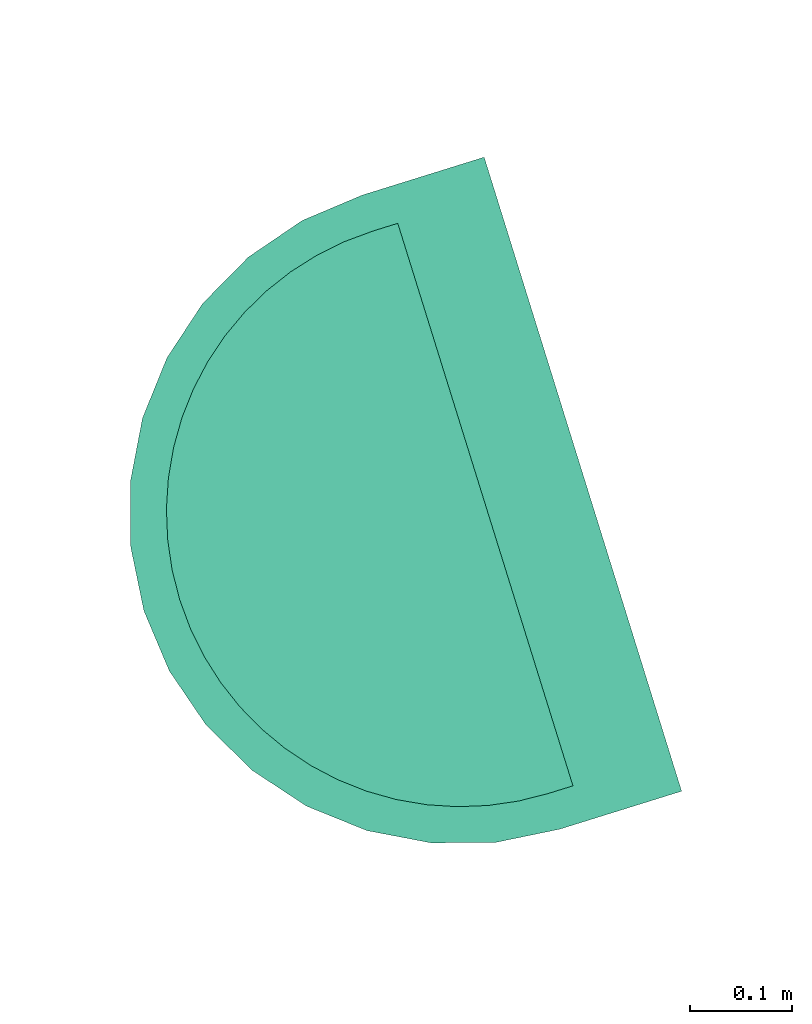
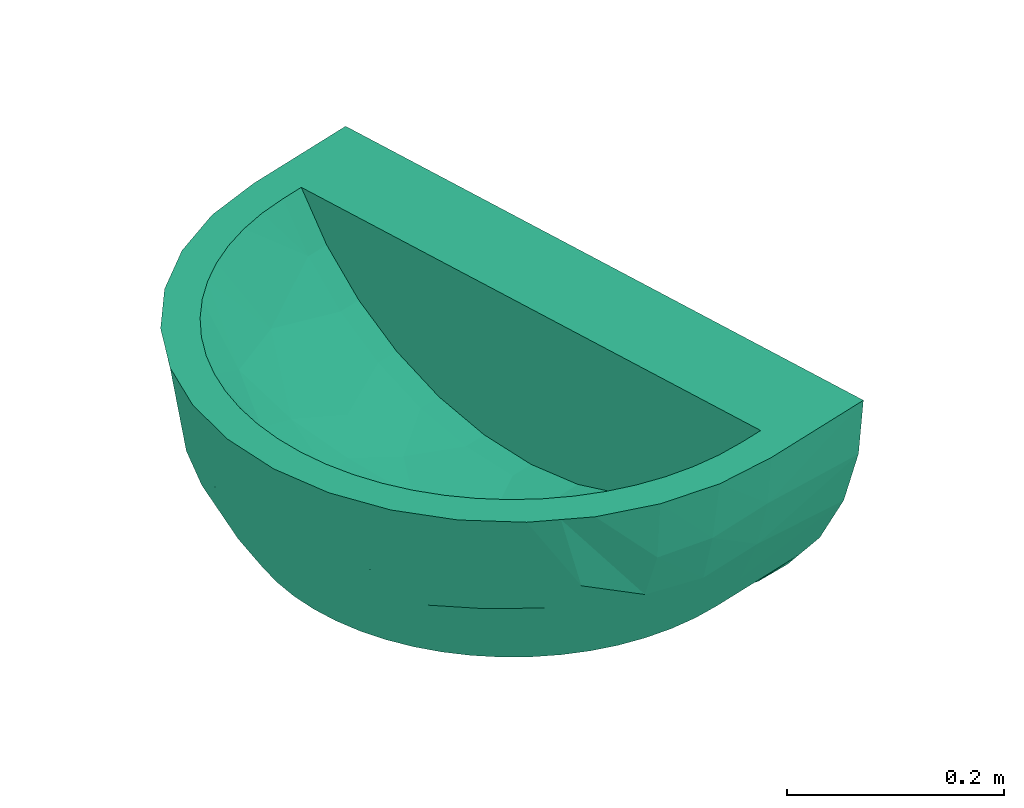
# Not in any storey, part 14 of 17: 1 sanitary terminal.
"""IFC4 model written with IfcOpenShell, lengths in metres."""

from ifc_helpers import new_model, entity, si_unit, converted_unit, direction, frame, origin, place, context, subcontext, project, polygons, source, transform, mapped, material, type_object, type_shapes, element, save


model = new_model("IFC4")

# Units and contexts
model_context = context("Model", 3, precision=1e-05, world=origin(), true_north=direction((6.12323399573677e-17, 1.0)))
body_context = subcontext(model_context, "Body", "Model", "MODEL_VIEW")
ifc_project = project(units=[si_unit("LENGTHUNIT", "METRE"), si_unit("AREAUNIT", "SQUARE_METRE"), converted_unit("PLANEANGLEUNIT", "DEGREE", entity("IfcPlaneAngleMeasure", 0.0174532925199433), si_unit("PLANEANGLEUNIT", "RADIAN"), dimensions=[0, 0, 0, 0, 0, 0, 0]), si_unit("VOLUMEUNIT", "CUBIC_METRE")], contexts=[model_context])

# Sanitary terminal
ifc_material = material(Name="<Unnamed>")
sanitary_terminal_type = type_object("IfcSanitaryTerminalType", Name="NLRS_74_PF_WB_wastafel_gen:wastafel", PredefinedType="SINK", material=ifc_material)
shared_shape = source(origin(), body_context, "Body", "Tessellation", [
    polygons([(-0.303081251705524, 0.175000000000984, -3.7), (-0.303081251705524, 0.0499999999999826, -3.7), (0.021918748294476, 0.0499999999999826, -3.7), (0.021918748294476, 0.150000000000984, -3.7), (-0.266395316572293, 0.150000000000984, -3.7), (-0.266395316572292, 0.175000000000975, -3.7), (-0.264816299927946, 0.205133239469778, -3.7), (-0.260095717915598, 0.234940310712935, -3.7), (-0.252285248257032, 0.264090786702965, -3.7), (-0.241470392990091, 0.292265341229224, -3.7), (-0.227769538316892, 0.319155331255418, -3.7), (-0.21133265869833, 0.344466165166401, -3.7), (-0.192339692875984, 0.367920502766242, -3.7), (-0.170998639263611, 0.389261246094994, -3.7), (-0.147543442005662, 0.408254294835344, -3.7), (-0.122231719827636, 0.424691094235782, -3.7), (-0.0953421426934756, 0.438391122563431, -3.7), (-0.0671705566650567, 0.449204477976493, -3.7), (-0.038024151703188, 0.457013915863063, -3.7), (-0.00821701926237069, 0.461734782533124, -3.7), (0.021918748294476, 0.463314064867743, -3.7), (0.021918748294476, 0.500000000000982, -3.7), (-0.0414856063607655, 0.493755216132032, -3.7), (-0.102453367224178, 0.475260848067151, -3.7), (-0.158641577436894, 0.44522762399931, -3.7), (-0.207890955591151, 0.404809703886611, -3.7), (-0.248308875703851, 0.355560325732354, -3.7), (-0.278342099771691, 0.299372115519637, -3.7), (-0.296836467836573, 0.238404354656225, -3.7), (0.346918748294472, 0.175000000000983, -3.7), (0.340673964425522, 0.238404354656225, -3.7), (0.32217959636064, 0.299372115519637, -3.7), (0.292146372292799, 0.355560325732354, -3.7), (0.2517284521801, 0.404809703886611, -3.7), (0.202479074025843, 0.44522762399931, -3.7), (0.146290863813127, 0.475260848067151, -3.7), (0.0853231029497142, 0.493755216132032, -3.7), (0.0520545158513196, 0.461734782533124, -3.7), (0.0818616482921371, 0.457013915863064, -3.7), (0.111008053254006, 0.449204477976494, -3.7), (0.139179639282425, 0.438391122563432, -3.7), (0.166069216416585, 0.424691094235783, -3.7), (0.191380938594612, 0.408254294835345, -3.7), (0.214836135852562, 0.389261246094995, -3.7), (0.236177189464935, 0.367920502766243, -3.7), (0.255170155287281, 0.344466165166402, -3.7), (0.271607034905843, 0.319155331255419, -3.7), (0.285307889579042, 0.292265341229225, -3.7), (0.296122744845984, 0.264090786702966, -3.7), (0.303933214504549, 0.234940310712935, -3.7), (0.308653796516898, 0.205133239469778, -3.7), (0.310232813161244, 0.175000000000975, -3.7), (0.310232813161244, 0.150000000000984, -3.7), (0.346918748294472, 0.0499999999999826, -3.7), (-0.298628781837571, 0.175000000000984, -3.75361232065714), (-0.285393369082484, 0.175000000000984, -3.8057556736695), (-0.263737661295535, 0.175000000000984, -3.85500134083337), (-0.234255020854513, 0.175000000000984, -3.9), (-0.234255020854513, 0.0749999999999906, -3.9), (-0.193925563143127, 0.0749999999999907, -3.94297372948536), (-0.146498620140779, 0.0749999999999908, -3.97795789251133), (-0.0935337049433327, 0.0749999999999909, -4.00380212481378), (-0.0367724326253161, 0.074999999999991, -4.01965660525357), (0.0219187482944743, 0.074999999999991, -4.025), (0.0806099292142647, 0.074999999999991, -4.01965660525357), (0.137371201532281, 0.0749999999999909, -4.00380212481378), (0.190336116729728, 0.0749999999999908, -3.97795789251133), (0.237763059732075, 0.0749999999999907, -3.94297372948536), (0.278092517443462, 0.0749999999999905, -3.9), (0.278092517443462, 0.175000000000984, -3.9), (0.307575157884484, 0.175000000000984, -3.85500134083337), (0.329230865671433, 0.175000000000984, -3.8057556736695), (0.34246627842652, 0.175000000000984, -3.75361232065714), (0.340673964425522, 0.0499999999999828, -3.76340435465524), (0.32217959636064, 0.049999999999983, -3.82437211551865), (0.292146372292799, 0.0499999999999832, -3.88056032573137), (0.2517284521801, 0.0499999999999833, -3.92980970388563), (0.202479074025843, 0.0499999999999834, -3.97022762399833), (0.146290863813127, 0.0499999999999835, -4.00026084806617), (0.085323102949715, 0.0499999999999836, -4.01875521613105), (0.0219187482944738, 0.0499999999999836, -4.025), (-0.0414856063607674, 0.0499999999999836, -4.01875521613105), (-0.102453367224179, 0.0499999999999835, -4.00026084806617), (-0.158641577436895, 0.0499999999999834, -3.97022762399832), (-0.207890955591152, 0.0499999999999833, -3.92980970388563), (-0.248308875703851, 0.0499999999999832, -3.88056032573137), (-0.278342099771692, 0.049999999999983, -3.82437211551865), (-0.296836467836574, 0.0499999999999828, -3.76340435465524), (-0.21409029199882, 0.0749999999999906, -3.92148686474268), (-0.170212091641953, 0.0749999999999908, -3.96046581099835), (0.214049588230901, 0.0749999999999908, -3.96046581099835), (0.257927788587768, 0.0749999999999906, -3.92148686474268), (0.27193741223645, 0.0499999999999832, -3.9051850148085), (0.227103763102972, 0.0499999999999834, -3.95001866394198), (0.174384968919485, 0.0499999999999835, -3.98524423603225), (0.115806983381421, 0.0499999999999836, -4.00950803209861), (-0.0719694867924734, 0.0499999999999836, -4.00950803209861), (-0.130547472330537, 0.0499999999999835, -3.98524423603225), (-0.183266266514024, 0.0499999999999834, -3.95001866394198), (-0.228099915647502, 0.0499999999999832, -3.9051850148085), (0.163853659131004, 0.0749999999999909, -3.99088000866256), (0.108990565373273, 0.0749999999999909, -4.01172936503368), (-0.0651530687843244, 0.0749999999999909, -4.01172936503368), (-0.120016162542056, 0.0749999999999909, -3.99088000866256), (0.27659082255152, 0.202697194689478, -3.9), (0.272103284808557, 0.230069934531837, -3.9), (0.264682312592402, 0.256797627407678, -3.9), (0.254414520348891, 0.282567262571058, -3.9), (0.24141970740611, 0.307076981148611, -3.9), (0.225849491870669, 0.330039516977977, -3.9), (0.207885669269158, 0.351185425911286, -3.9), (0.18773840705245, 0.370266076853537, -3.9), (0.165644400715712, 0.38705644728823, -3.9), (0.141864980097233, 0.401357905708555, -3.9), (0.116683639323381, 0.413001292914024, -3.9), (0.0904016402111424, 0.421850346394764, -3.9), (0.0633306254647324, 0.427804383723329, -3.9), (0.0357845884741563, 0.430798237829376, -3.9), (0.00807674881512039, 0.43079952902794, -3.9), (-0.0194777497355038, 0.427806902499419, -3.9), (-0.0465597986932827, 0.421851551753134, -3.9), (-0.0728496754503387, 0.412999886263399, -3.9), (-0.0980340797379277, 0.401354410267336, -3.9), (-0.121813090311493, 0.387052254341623, -3.9), (-0.1439051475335, 0.370262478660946, -3.9), (-0.164050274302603, 0.351183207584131, -3.9), (-0.182012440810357, 0.33003893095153, -3.9), (-0.197581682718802, 0.307077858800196, -3.9), (-0.210576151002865, 0.282569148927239, -3.9), (-0.220844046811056, 0.256799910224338, -3.9), (-0.228265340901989, 0.230071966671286, -3.9), (-0.232753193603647, 0.202698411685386, -3.9), (-0.257045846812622, 0.297316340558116, -3.81332461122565), (0.300884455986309, 0.297313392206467, -3.81332505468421), (-0.0097834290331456, 0.496877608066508, -3.7), (-0.205655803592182, 0.378737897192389, -3.81102113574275), (0.249493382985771, 0.378737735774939, -3.81102126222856), (0.0536209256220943, 0.496877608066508, -3.7), (0.0219337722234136, 0.481913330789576, -3.80690747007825), (-0.0719694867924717, 0.484508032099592, -3.7), (0.11580698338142, 0.484508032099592, -3.7), (-0.0425022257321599, 0.471258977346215, -3.81707073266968), (-0.165040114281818, 0.416191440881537, -3.81179477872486), (0.20887408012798, 0.416198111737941, -3.81178629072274), (0.0863501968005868, 0.471256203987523, -3.8170719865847), (-0.23446246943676, 0.305265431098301, -3.85140868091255), (0.278301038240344, 0.305263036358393, -3.85140892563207), (-0.120243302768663, 0.443687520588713, -3.81498681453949), (0.164074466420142, 0.443691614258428, -3.81498507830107), (-0.233336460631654, 0.358005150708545, -3.78353976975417), (0.277175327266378, 0.358003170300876, -3.78353992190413), (-0.290060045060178, 0.240925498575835, -3.76283359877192), (0.333897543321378, 0.240925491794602, -3.76283359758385), (-0.275008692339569, 0.237028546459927, -3.81666856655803), (-0.254394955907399, 0.239447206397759, -3.85850014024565), (-0.272362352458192, 0.296908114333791, -3.76451391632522), (0.31884634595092, 0.237026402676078, -3.81666930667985), (0.298232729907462, 0.239444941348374, -3.85850057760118), (0.316201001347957, 0.296905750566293, -3.76451312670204), (-0.0755829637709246, 0.474402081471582, -3.78047862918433), (-0.0690330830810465, 0.449635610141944, -3.84808121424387), (0.119420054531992, 0.474406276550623, -3.7804635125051), (0.112885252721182, 0.449636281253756, -3.84807095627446), (-0.228099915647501, 0.380185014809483, -3.7), (0.27193741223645, 0.380185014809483, -3.7), (-0.183266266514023, 0.425018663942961, -3.7), (0.227103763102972, 0.425018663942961, -3.7), (-0.130547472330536, 0.460244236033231, -3.7), (0.174384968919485, 0.460244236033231, -3.7), (-0.234514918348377, 0.175000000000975, -3.74966665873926), (-0.194178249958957, 0.175000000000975, -3.79274902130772), (-0.146715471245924, 0.175000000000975, -3.82782638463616), (-0.0936917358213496, 0.175000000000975, -3.85374202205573), (-0.0368555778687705, 0.175000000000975, -3.86964132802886), (0.0219187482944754, 0.175000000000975, -3.875), (0.0806930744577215, 0.175000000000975, -3.86964132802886), (0.137529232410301, 0.175000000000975, -3.85374202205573), (0.190552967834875, 0.175000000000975, -3.82782638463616), (0.238015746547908, 0.175000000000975, -3.79274902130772), (0.278352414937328, 0.175000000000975, -3.74966665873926), (-0.119627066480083, 0.322173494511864, -3.80284332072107), (0.163464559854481, 0.32217349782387, -3.8028433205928), (-0.200517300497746, 0.262511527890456, -3.77020203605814), (0.244354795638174, 0.262511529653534, -3.77020203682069), (-0.162633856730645, 0.347041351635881, -3.75485875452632), (0.206471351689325, 0.347041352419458, -3.75485875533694), (0.00220012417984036, 0.367185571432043, -3.81134437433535), (-0.0912046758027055, 0.393814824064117, -3.76200981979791), (0.135042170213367, 0.393814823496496, -3.76200982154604), (0.0498196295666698, 0.280825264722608, -3.85601887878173), (-0.0620730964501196, 0.266760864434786, -3.85025041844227), (0.160889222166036, 0.248929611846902, -3.83433540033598), (0.0405814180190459, 0.417340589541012, -3.76574926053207), (0.0863370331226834, 0.354389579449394, -3.81323879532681), (-0.00909478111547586, 0.420066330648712, -3.76120050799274), (-0.0478694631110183, 0.381606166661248, -3.79097405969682), (-0.0422183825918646, 0.327597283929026, -3.82968821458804), (-0.0074080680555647, 0.286981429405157, -3.8536858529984), (-0.00719351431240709, 0.22811728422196, -3.869305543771), (-0.0504034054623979, 0.422275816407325, -3.7481140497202), (0.115439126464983, 0.298042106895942, -3.83590134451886), (0.101584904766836, 0.237319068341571, -3.85886022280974), (-0.144773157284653, 0.251326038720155, -3.81835264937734), (0.0860600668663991, 0.418745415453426, -3.75518056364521), (-0.234512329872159, 0.150000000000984, -3.74966998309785), (-0.19417475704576, 0.150000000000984, -3.79275213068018), (-0.146711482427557, 0.150000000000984, -3.8278288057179), (-0.0936885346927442, 0.150000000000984, -3.85374324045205), (-0.0368543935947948, 0.150000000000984, -3.869641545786), (0.021917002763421, 0.150000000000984, -3.87499999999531), (0.080687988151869, 0.150000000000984, -3.86964226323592), (0.137520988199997, 0.150000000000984, -3.85374515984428), (0.19054233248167, 0.150000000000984, -3.82783283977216), (0.238003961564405, 0.150000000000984, -3.79275951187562), (0.278341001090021, 0.150000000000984, -3.74968131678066)], [[[22, 135, 23, 140, 24, 168, 25, 166, 26, 164, 27, 28, 29, 1, 2, 3, 54, 30, 31, 32, 33, 165, 34, 167, 35, 169, 36, 141, 37, 138], [21, 38, 39, 40, 41, 42, 43, 44, 45, 46, 47, 48, 49, 50, 51, 52, 53, 4, 5, 6, 7, 8, 9, 10, 11, 12, 13, 14, 15, 16, 17, 18, 19, 20]], [[55, 2, 1]], [[88, 55, 56]], [[56, 57, 87]], [[89, 100, 59]], [[97, 62, 103]], [[104, 83, 98]], [[82, 103, 63]], [[97, 103, 82]], [[63, 81, 82]], [[57, 58, 59]], [[68, 77, 94]], [[86, 59, 100]], [[86, 87, 57]], [[88, 2, 55]], [[56, 87, 88]], [[59, 86, 57]], [[98, 84, 61]], [[83, 62, 97]], [[60, 99, 85]], [[90, 61, 84]], [[69, 76, 93]], [[90, 99, 60]], [[100, 89, 85]], [[60, 85, 89]], [[78, 67, 91]], [[63, 64, 81]], [[66, 96, 102]], [[83, 104, 62]], [[68, 94, 91]], [[67, 78, 95]], [[79, 101, 95]], [[67, 95, 101]], [[72, 73, 74]], [[69, 70, 71]], [[75, 71, 72]], [[77, 68, 92]], [[81, 64, 65]], [[54, 73, 30]], [[99, 90, 84]], [[102, 80, 65]], [[79, 66, 101]], [[91, 94, 78]], [[80, 102, 96]], [[65, 80, 81]], [[66, 79, 96]], [[93, 77, 92]], [[69, 71, 76]], [[75, 76, 71]], [[72, 74, 75]], [[73, 54, 74]], [[69, 93, 92]], [[98, 61, 104]], [[74, 54, 3, 2, 88, 87, 86, 100, 85, 99, 84, 98, 83, 97, 82, 81, 80, 96, 79, 95, 78, 94, 77, 93, 76, 75]], [[143, 136, 25]], [[32, 159, 33]], [[134, 157, 158]], [[143, 125, 126]], [[146, 150, 136]], [[126, 127, 143]], [[109, 147, 108]], [[136, 143, 127]], [[125, 143, 148]], [[153, 157, 159]], [[121, 122, 161]], [[142, 135, 139]], [[153, 159, 32]], [[119, 120, 142]], [[24, 148, 143]], [[142, 160, 23]], [[147, 151, 134]], [[160, 161, 148]], [[124, 148, 123]], [[140, 148, 24]], [[160, 140, 23]], [[158, 106, 107]], [[128, 146, 136]], [[29, 28, 152]], [[148, 140, 160]], [[55, 152, 56]], [[156, 133, 154]], [[29, 55, 1]], [[152, 55, 29]], [[151, 34, 165]], [[137, 151, 147]], [[156, 28, 27]], [[121, 161, 142]], [[119, 142, 139]], [[131, 155, 130]], [[129, 130, 146]], [[149, 112, 113]], [[150, 26, 166]], [[58, 57, 155]], [[139, 118, 119]], [[56, 154, 57]], [[155, 57, 154]], [[161, 123, 148]], [[138, 145, 139]], [[155, 146, 130]], [[127, 128, 136]], [[133, 164, 150]], [[155, 132, 58]], [[161, 160, 142]], [[145, 138, 37]], [[71, 70, 158]], [[128, 129, 146]], [[139, 135, 22]], [[138, 139, 22]], [[139, 145, 118]], [[135, 142, 23]], [[145, 116, 117]], [[114, 149, 113]], [[149, 141, 36]], [[144, 35, 137]], [[154, 152, 156]], [[146, 155, 133]], [[110, 144, 137]], [[148, 124, 125]], [[163, 145, 162]], [[151, 165, 134]], [[144, 112, 149]], [[137, 109, 110]], [[118, 145, 117]], [[154, 133, 155]], [[162, 145, 37]], [[28, 156, 152]], [[150, 146, 133]], [[24, 143, 25, 168]], [[111, 112, 144]], [[110, 111, 144]], [[116, 145, 163]], [[137, 167, 151]], [[109, 137, 147]], [[120, 121, 142]], [[71, 158, 157]], [[107, 147, 158]], [[162, 37, 141]], [[147, 134, 158]], [[107, 108, 147]], [[157, 72, 71]], [[70, 105, 158]], [[152, 154, 56]], [[153, 31, 73]], [[114, 115, 163]], [[137, 35, 167]], [[156, 164, 133]], [[30, 73, 31]], [[153, 73, 72]], [[150, 166, 136]], [[157, 134, 159]], [[105, 106, 158]], [[31, 153, 32]], [[144, 36, 169, 35]], [[155, 131, 132]], [[164, 26, 150]], [[159, 134, 165]], [[157, 153, 72]], [[161, 122, 123]], [[141, 149, 162]], [[149, 114, 163]], [[149, 163, 162]], [[116, 163, 115]], [[164, 156, 27]], [[165, 33, 159]], [[25, 136, 166]], [[34, 151, 167]], [[36, 144, 149]], [[16, 15, 185]], [[190, 187, 198]], [[14, 13, 185]], [[199, 202, 190]], [[197, 198, 187]], [[183, 185, 11]], [[188, 17, 16]], [[191, 197, 181]], [[21, 195, 193]], [[193, 194, 204]], [[191, 203, 173]], [[197, 187, 196]], [[195, 200, 196]], [[20, 195, 21]], [[188, 16, 185]], [[195, 196, 187]], [[188, 196, 200]], [[198, 197, 191]], [[8, 183, 9]], [[188, 200, 18]], [[8, 7, 170]], [[201, 194, 190]], [[192, 201, 202]], [[170, 7, 6]], [[10, 9, 183]], [[20, 19, 200]], [[203, 183, 171]], [[173, 203, 172]], [[190, 202, 201]], [[171, 183, 170]], [[170, 183, 8]], [[185, 13, 12]], [[10, 183, 11]], [[179, 184, 178]], [[17, 188, 18]], [[12, 11, 185]], [[198, 199, 190]], [[14, 185, 15]], [[196, 188, 181]], [[174, 199, 191]], [[195, 187, 193]], [[182, 189, 194]], [[186, 42, 189]], [[182, 192, 184]], [[202, 176, 177]], [[189, 41, 40]], [[39, 38, 204]], [[43, 42, 186]], [[45, 44, 186]], [[197, 196, 181]], [[186, 184, 47]], [[194, 193, 187]], [[204, 189, 40]], [[186, 47, 46]], [[194, 201, 182]], [[44, 43, 186]], [[174, 175, 199]], [[48, 47, 184]], [[42, 41, 189]], [[174, 191, 173]], [[178, 184, 192]], [[192, 177, 178]], [[182, 184, 186]], [[181, 183, 203]], [[199, 198, 191]], [[181, 188, 185]], [[179, 180, 184]], [[200, 195, 20]], [[18, 200, 19]], [[180, 50, 184]], [[52, 51, 180]], [[50, 180, 51]], [[38, 21, 193]], [[46, 45, 186]], [[202, 199, 175]], [[184, 50, 49]], [[48, 184, 49]], [[181, 185, 183]], [[192, 182, 201]], [[40, 39, 204]], [[190, 194, 187]], [[182, 186, 189]], [[192, 202, 177]], [[175, 176, 202]], [[181, 203, 191]], [[172, 203, 171]], [[189, 204, 194]], [[193, 204, 38]], [[6, 5, 170]], [[170, 205, 171]], [[173, 172, 207]], [[206, 172, 171]], [[174, 173, 208]], [[170, 5, 205]], [[171, 205, 206]], [[174, 209, 210]], [[173, 207, 208]], [[174, 208, 209]], [[207, 172, 206]], [[210, 175, 174]], [[176, 175, 211]], [[176, 212, 177]], [[179, 178, 214]], [[213, 178, 177]], [[180, 179, 215]], [[212, 176, 211]], [[213, 177, 212]], [[214, 215, 179]], [[178, 213, 214]], [[53, 180, 215]], [[180, 53, 52]], [[210, 211, 175]], [[215, 214, 213, 212, 211, 210, 209, 208, 207, 206, 205, 5, 4, 53]], [[67, 101, 66, 102, 65, 64, 63, 103, 62, 104, 61, 90, 60, 89, 59, 69, 92, 68, 91]], [[69, 59, 58, 132, 131, 130, 129, 128, 127, 126, 125, 124, 123, 122, 121, 120, 119, 118, 117, 116, 115, 114, 113, 112, 111, 110, 109, 108, 107, 106, 105, 70]]], closed=True),
])
type_shapes(sanitary_terminal_type, [shared_shape])
placement_1 = place(None, frame((13.1347999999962, 11.9886000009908, 0.0), z_axis=(0.0, 0.0, 1.0), x_axis=(0.954770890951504, 0.297342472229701, 0.0)))
placement_2 = place(placement_1, origin())
placement_3 = place(placement_2, frame((0.0, 0.0, 3.9)))
placement_4 = place(placement_3, origin())
sanitary_terminal_placement = place(placement_4, frame((75.2749999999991, 17.9530812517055, 4.525), z_axis=(0.0, 0.0, 1.0), x_axis=(0.0, 1.0, 0.0)))
element("IfcSanitaryTerminal", 1, at=sanitary_terminal_placement, type_object=sanitary_terminal_type, material=ifc_material, Name="NLRS_74_PF_WB_wastafel_gen:wastafel", ObjectType="NLRS_74_PF_WB_wastafel_gen:wastafel", PredefinedType="SINK", context=body_context, shape_type="MappedRepresentation", body=[
    mapped(shared_shape, transform((0.0, 0.0, 0.0), scale=1.0)),
])

save(model, "model.ifc")
